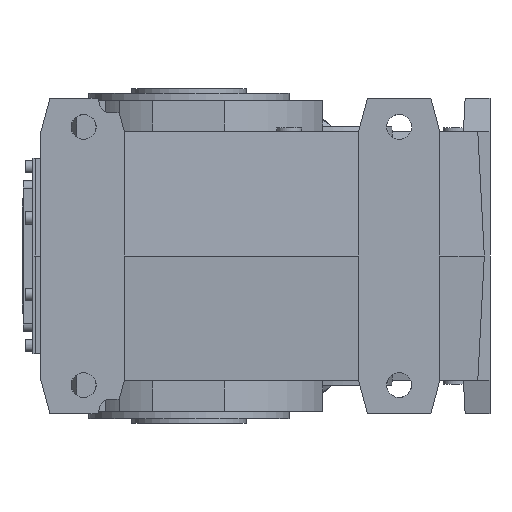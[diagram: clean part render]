
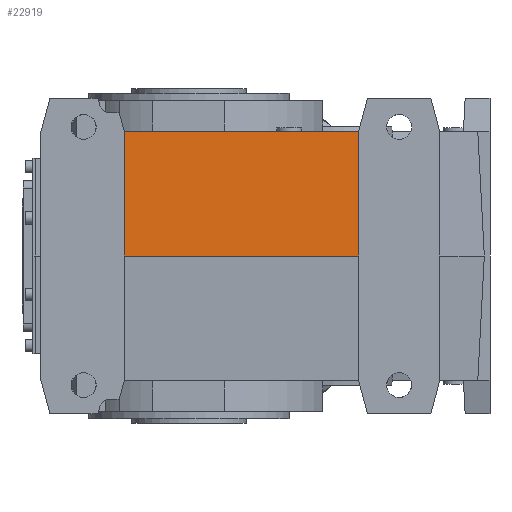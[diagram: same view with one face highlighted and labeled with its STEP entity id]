
A CAD part, left-side view. The second image highlights one B-rep face of the part: STEP entity #22919.
In plain terms, the highlighted planar face has unit normal (-0.999, 0, 0.052) as drawn and (0.999, 0, -0.052) by its records, which use the part's own axes.
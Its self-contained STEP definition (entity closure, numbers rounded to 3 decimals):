
#14841 = VERTEX_POINT('',#14842);
#14842 = CARTESIAN_POINT('',(-187.187,67.5,130.));
#14848 = EDGE_CURVE('',#14841,#14849,#14851,.T.);
#14849 = VERTEX_POINT('',#14850);
#14850 = CARTESIAN_POINT('',(-187.187,-177.5,130.));
#14851 = LINE('',#14852,#14853);
#14852 = CARTESIAN_POINT('',(-187.187,-35.,130.));
#14853 = VECTOR('',#14854,1.);
#14854 = DIRECTION('',(0.,-1.,0.));
#22919 = ADVANCED_FACE('',(#22920),#22945,.T.);
#22920 = FACE_BOUND('',#22921,.F.);
#22921 = EDGE_LOOP('',(#22922,#22930,#22938,#22944));
#22922 = ORIENTED_EDGE('',*,*,#22923,.T.);
#22923 = EDGE_CURVE('',#14841,#22924,#22926,.T.);
#22924 = VERTEX_POINT('',#22925);
#22925 = CARTESIAN_POINT('',(-194.,67.5,0.));
#22926 = LINE('',#22927,#22928);
#22927 = CARTESIAN_POINT('',(-185.353,67.5,165.));
#22928 = VECTOR('',#22929,1.);
#22929 = DIRECTION('',(-0.052,0.,-0.999));
#22930 = ORIENTED_EDGE('',*,*,#22931,.F.);
#22931 = EDGE_CURVE('',#22932,#22924,#22934,.T.);
#22932 = VERTEX_POINT('',#22933);
#22933 = CARTESIAN_POINT('',(-194.,-177.5,0.));
#22934 = LINE('',#22935,#22936);
#22935 = CARTESIAN_POINT('',(-194.,-177.5,0.));
#22936 = VECTOR('',#22937,1.);
#22937 = DIRECTION('',(0.,1.,0.));
#22938 = ORIENTED_EDGE('',*,*,#22939,.F.);
#22939 = EDGE_CURVE('',#14849,#22932,#22940,.T.);
#22940 = LINE('',#22941,#22942);
#22941 = CARTESIAN_POINT('',(-185.353,-177.5,165.));
#22942 = VECTOR('',#22943,1.);
#22943 = DIRECTION('',(-0.052,0.,-0.999));
#22944 = ORIENTED_EDGE('',*,*,#14848,.F.);
#22945 = PLANE('',#22946);
#22946 = AXIS2_PLACEMENT_3D('',#22947,#22948,#22949);
#22947 = CARTESIAN_POINT('',(-185.353,-177.5,165.));
#22948 = DIRECTION('',(0.999,0.,-0.052));
#22949 = DIRECTION('',(-0.052,0.,-0.999));
